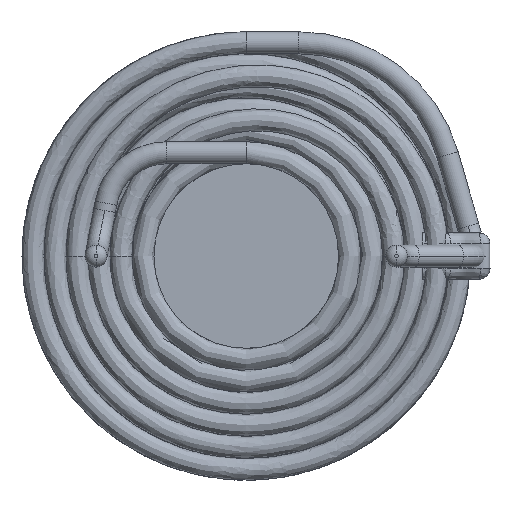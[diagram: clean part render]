
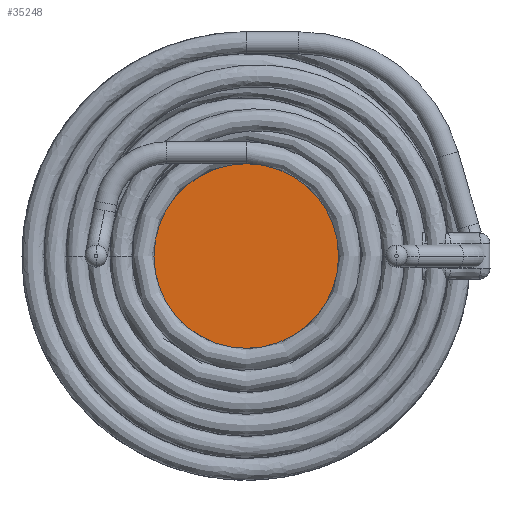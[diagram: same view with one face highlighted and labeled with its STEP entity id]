
A CAD part, front view. The second image highlights one B-rep face of the part: STEP entity #35248.
In plain terms, the highlighted planar face has unit normal (0, -1, 0).
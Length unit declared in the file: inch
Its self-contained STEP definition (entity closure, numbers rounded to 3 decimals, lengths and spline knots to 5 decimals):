
#2033 = VERTEX_POINT ( 'NONE', #21418 ) ;
#2172 = EDGE_CURVE ( 'NONE', #20442, #2033, #15117, .T. ) ;
#5963 = AXIS2_PLACEMENT_3D ( 'NONE', #7603, #18006, #28461 ) ;
#7603 = CARTESIAN_POINT ( 'NONE',  ( 0., 0., 0. ) ) ;
#12289 = ORIENTED_EDGE ( 'NONE', *, *, #2172, .F. ) ;
#13840 = AXIS2_PLACEMENT_3D ( 'NONE', #28370, #15631, #20253 ) ;
#15117 = CIRCLE ( 'NONE', #31728, 0.11732 ) ;
#15182 = CARTESIAN_POINT ( 'NONE',  ( 0., 0., 0. ) ) ;
#15631 = DIRECTION ( 'NONE',  ( 0., 1., 0. ) ) ;
#16817 = CARTESIAN_POINT ( 'NONE',  ( 0., 0., 0.11732 ) ) ;
#17809 = EDGE_LOOP ( 'NONE', ( #34859, #12289 ) ) ;
#18006 = DIRECTION ( 'NONE',  ( 0., 1., 0. ) ) ;
#19925 = EDGE_CURVE ( 'NONE', #2033, #20442, #20271, .T. ) ;
#20253 = DIRECTION ( 'NONE',  ( 0., 0., 1. ) ) ;
#20271 = CIRCLE ( 'NONE', #13840, 0.11732 ) ;
#20442 = VERTEX_POINT ( 'NONE', #16817 ) ;
#21418 = CARTESIAN_POINT ( 'NONE',  ( 0., 0., -0.11732 ) ) ;
#22091 = FACE_OUTER_BOUND ( 'NONE', #17809, .T. ) ;
#27283 = PLANE ( 'NONE',  #5963 ) ;
#28370 = CARTESIAN_POINT ( 'NONE',  ( 0., 0., 0. ) ) ;
#28461 = DIRECTION ( 'NONE',  ( 0., 0., 1. ) ) ;
#30809 = DIRECTION ( 'NONE',  ( 0., 1., 0. ) ) ;
#31728 = AXIS2_PLACEMENT_3D ( 'NONE', #15182, #30809, #33098 ) ;
#33098 = DIRECTION ( 'NONE',  ( 0., 0., 1. ) ) ;
#34859 = ORIENTED_EDGE ( 'NONE', *, *, #19925, .F. ) ;
#35248 = ADVANCED_FACE ( 'NONE', ( #22091 ), #27283, .F. ) ;
